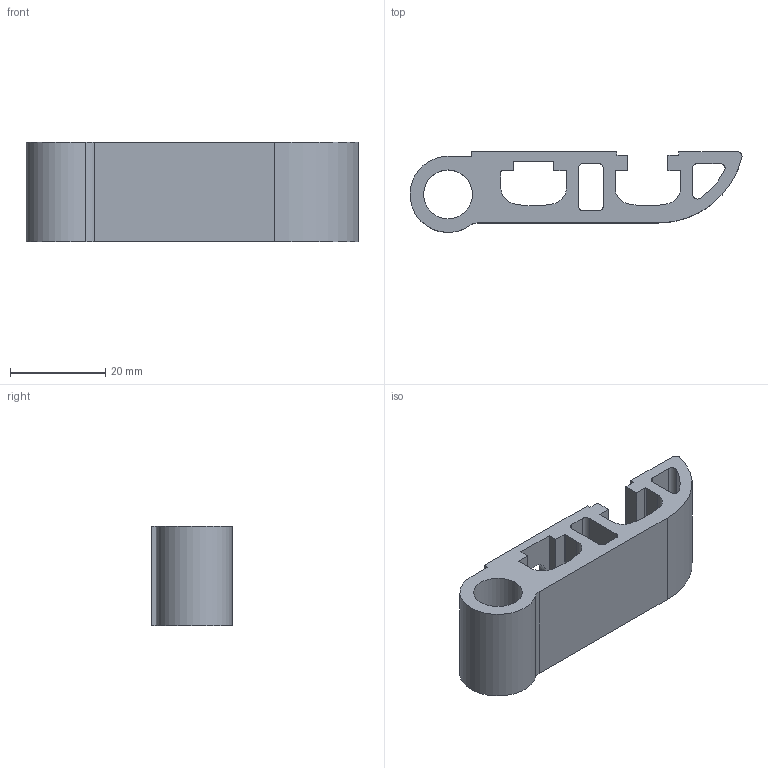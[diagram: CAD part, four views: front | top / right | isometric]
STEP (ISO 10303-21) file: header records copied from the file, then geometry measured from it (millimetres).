
FILE_DESCRIPTION (( 'STEP AP214' ), '1' );
FILE_NAME ('N50128.step', '2024-12-03T16:27:35', ( '' ), ( '' ), 'SwSTEP 2.0', 'SolidWorks 2023', '' );
FILE_SCHEMA (( 'AUTOMOTIVE_DESIGN' ));
Length unit declared in the file: millimetre
Products named in the file (1): N50128
Bounding box: 69.77 x 16.98 x 21 mm (x, y, z)
Volume: 11525.3 mm3; surface area: 7663.3 mm2
Topology: 1 solids, 1 shells, 57 faces, 165 edges, 110 vertices
Faces by surface type: plane 32, cylinder 25
Full cylindrical faces by diameter (mm): 10.25 x1
Entity records: 1927 total; most frequent: CARTESIAN_POINT 332, DIRECTION 330, ORIENTED_EDGE 328, EDGE_CURVE 164, LINE 114, VECTOR 114, VERTEX_POINT 110, AXIS2_PLACEMENT_3D 108
